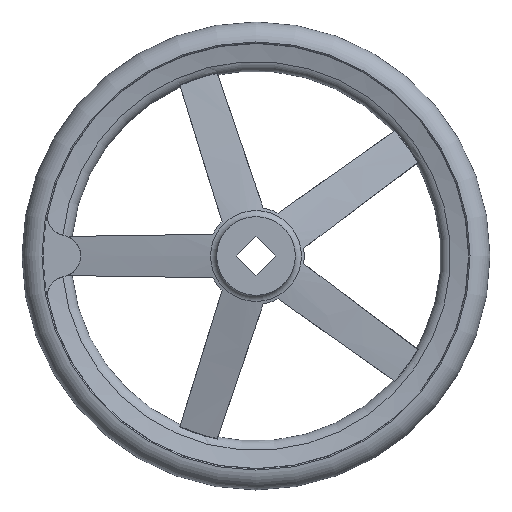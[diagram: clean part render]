
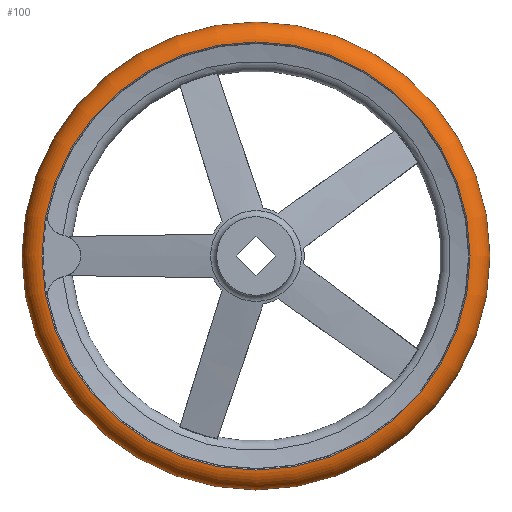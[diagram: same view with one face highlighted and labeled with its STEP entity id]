
A CAD part, left-side view. The second image highlights one B-rep face of the part: STEP entity #100.
In plain terms, the highlighted toroidal (fillet/blend) face has major radius 143.487 mm and minor radius 14.013 mm.
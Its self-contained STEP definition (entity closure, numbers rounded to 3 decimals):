
#100 = ADVANCED_FACE( '', ( #190, #191, #192 ), #193, .T. );
#190 = FACE_BOUND( '', #324, .T. );
#191 = FACE_OUTER_BOUND( '', #325, .T. );
#192 = FACE_OUTER_BOUND( '', #326, .T. );
#193 = TOROIDAL_SURFACE( '', #327, 143.487, 14.013 );
#324 = VERTEX_LOOP( '', #644 );
#325 = EDGE_LOOP( '', ( #645 ) );
#326 = EDGE_LOOP( '', ( #646 ) );
#327 = AXIS2_PLACEMENT_3D( '', #647, #648, #649 );
#644 = VERTEX_POINT( '', #1004 );
#645 = ORIENTED_EDGE( '', *, *, #1005, .T. );
#646 = ORIENTED_EDGE( '', *, *, #1006, .F. );
#647 = CARTESIAN_POINT( '', ( 42., 0., 0. ) );
#648 = DIRECTION( '', ( 1., 0., 0. ) );
#649 = DIRECTION( '', ( 0., 1., 0. ) );
#1004 = CARTESIAN_POINT( '', ( 42., 157.5, 0. ) );
#1005 = EDGE_CURVE( '', #1251, #1251, #1252, .T. );
#1006 = EDGE_CURVE( '', #1253, #1253, #1254, .T. );
#1251 = VERTEX_POINT( '', #2145 );
#1252 = CIRCLE( '', #2146, 144.083 );
#1253 = VERTEX_POINT( '', #2147 );
#1254 = CIRCLE( '', #2148, 144.083 );
#2145 = CARTESIAN_POINT( '', ( 28., 144.083, 0. ) );
#2146 = AXIS2_PLACEMENT_3D( '', #2423, #2424, #2425 );
#2147 = CARTESIAN_POINT( '', ( 56., 144.083, 0. ) );
#2148 = AXIS2_PLACEMENT_3D( '', #2426, #2427, #2428 );
#2423 = CARTESIAN_POINT( '', ( 28., 0., 0. ) );
#2424 = DIRECTION( '', ( 1., 0., 0. ) );
#2425 = DIRECTION( '', ( 0., 1., 0. ) );
#2426 = CARTESIAN_POINT( '', ( 56., 0., 0. ) );
#2427 = DIRECTION( '', ( 1., 0., 0. ) );
#2428 = DIRECTION( '', ( 0., 1., 0. ) );
